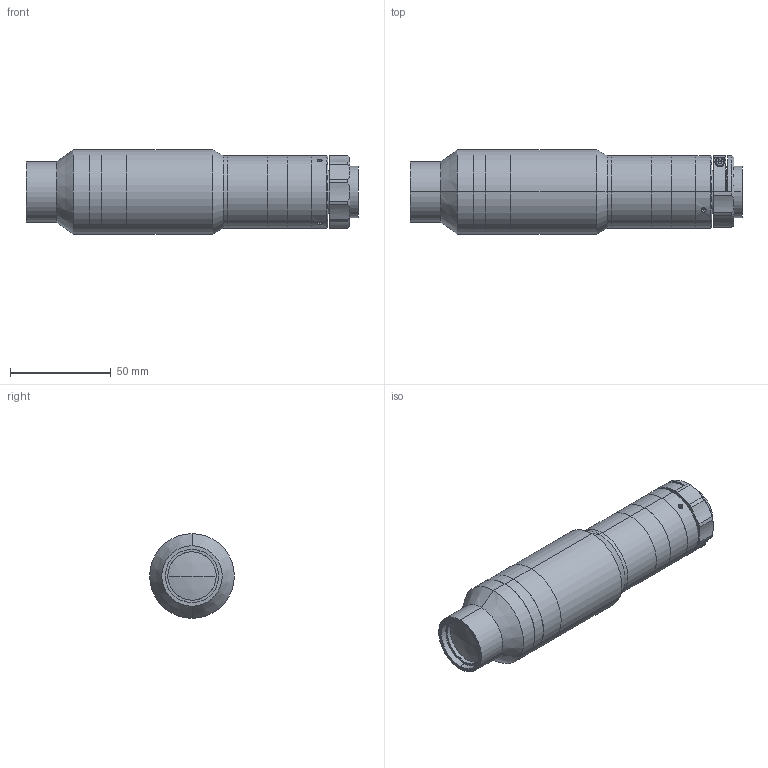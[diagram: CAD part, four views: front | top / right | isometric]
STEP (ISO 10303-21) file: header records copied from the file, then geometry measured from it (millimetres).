
FILE_DESCRIPTION (( 'STEP AP203' ), '1' );
FILE_NAME ('XF-MH045X272.STEP', '2020-08-24T07:12:17', ( 'canrill-02' ), ( '' ), 'SwSTEP 2.0', 'SolidWorks 2014', '' );
FILE_SCHEMA (( 'CONFIG_CONTROL_DESIGN' ));
Length unit declared in the file: millimetre
Products named in the file (1): XF-MH045X272
Bounding box: 164.83 x 42 x 42 mm (x, y, z)
Surface area: 26939.1 mm2 (no closed solid volume)
Topology: 0 solids, 15 shells, 118 faces, 308 edges, 211 vertices
Faces by surface type: cylinder 53, plane 44, cone 17, sphere 2, torus 2
Entity records: 4015 total; most frequent: CARTESIAN_POINT 957, DIRECTION 686, ORIENTED_EDGE 524, EDGE_CURVE 306, AXIS2_PLACEMENT_3D 284, VERTEX_POINT 211, CIRCLE 165, EDGE_LOOP 146
